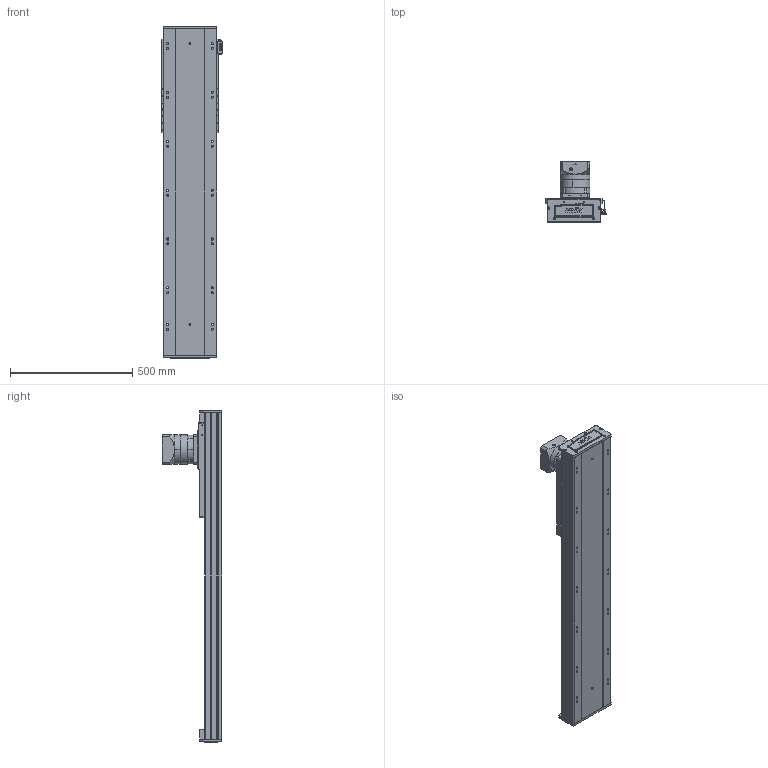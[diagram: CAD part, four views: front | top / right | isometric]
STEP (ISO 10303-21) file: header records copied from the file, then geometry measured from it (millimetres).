
FILE_DESCRIPTION (( 'STEP AP203' ), '1' );
FILE_NAME ('RY220-C-300-UK.SLDASM_0850.step', '2022-08-01T05:58:54', ( '' ), ( '' ), 'SwSTEP 2.0', 'SolidWorks 2016', '' );
FILE_SCHEMA (( 'CONFIG_CONTROL_DESIGN' ));
Length unit declared in the file: millimetre
Products named in the file (10): RY220菁釱MK-300_0850; RY220-齿条模组电机安装板; RY220喘沭賑輸; RY140直线电机感应器674光电安装座; RY220喘沭俋离覜茼え; RY220喘沭綴裔啣; RY220-C-300-UK.SLDASM_0850; 覜茼ん674; PF115L1-S2-22-58-110-145-M8; 滅袉蝶輸ㄗG412隅秶ㄘ
Assembly tree (12 placements, depth 2):
  RY220-C-300-UK.SLDASM_0850
    RY220菁釱MK-300_0850
    RY220喘沭賑輸
    RY220-齿条模组电机安装板
    PF115L1-S2-22-58-110-145-M8
    RY220喘沭綴裔啣  x2
    滅袉蝶輸ㄗG412隅秶ㄘ  x2
    RY140直线电机感应器674光电安装座
    覜茼ん674  x2
    RY220喘沭俋离覜茼え
Bounding box: 247 x 244.5 x 1359 mm (x, y, z)
Volume: 11588619 mm3; surface area: 2253092.4 mm2
Topology: 18 solids, 26 shells, 1928 faces, 5161 edges, 3297 vertices
Faces by surface type: cylinder 869, plane 751, bspline 162, cone 146
Entity records: 60869 total; most frequent: CARTESIAN_POINT 16817, DIRECTION 8959, ORIENTED_EDGE 8930, EDGE_CURVE 4465, AXIS2_PLACEMENT_3D 3387, VERTEX_POINT 2923, LINE 2185, VECTOR 2185
